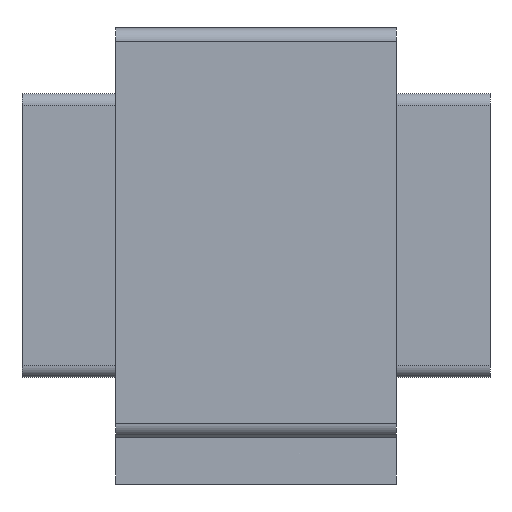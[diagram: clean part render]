
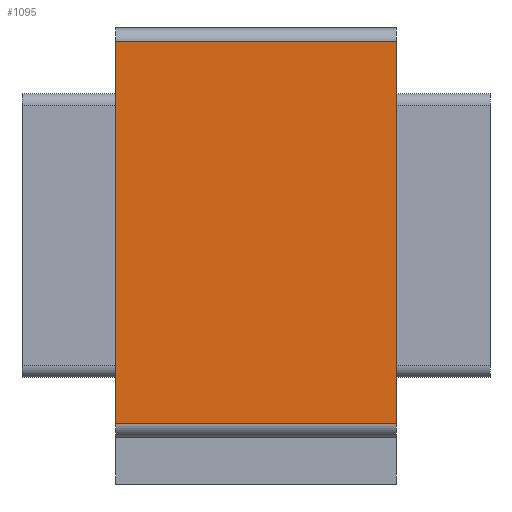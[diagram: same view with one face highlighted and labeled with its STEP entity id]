
A CAD part, left-side view. The second image highlights one B-rep face of the part: STEP entity #1095.
In plain terms, the highlighted planar face has unit normal (-1, 0, 0).
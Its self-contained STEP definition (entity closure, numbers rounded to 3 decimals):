
#63=PLANE('',#1199);
#99=FACE_OUTER_BOUND('',#158,.T.);
#158=EDGE_LOOP('',(#826,#827,#828,#829));
#226=LINE('',#1635,#326);
#248=LINE('',#1708,#348);
#260=LINE('',#1730,#360);
#261=LINE('',#1731,#361);
#326=VECTOR('',#1299,1000.);
#348=VECTOR('',#1357,1000.);
#360=VECTOR('',#1389,10.);
#361=VECTOR('',#1390,10.);
#484=VERTEX_POINT('',#1632);
#485=VERTEX_POINT('',#1634);
#504=VERTEX_POINT('',#1678);
#518=VERTEX_POINT('',#1706);
#589=EDGE_CURVE('',#484,#485,#226,.T.);
#626=EDGE_CURVE('',#518,#504,#248,.T.);
#638=EDGE_CURVE('',#518,#485,#260,.T.);
#639=EDGE_CURVE('',#504,#484,#261,.T.);
#826=ORIENTED_EDGE('',*,*,#626,.F.);
#827=ORIENTED_EDGE('',*,*,#638,.T.);
#828=ORIENTED_EDGE('',*,*,#589,.F.);
#829=ORIENTED_EDGE('',*,*,#639,.F.);
#1095=ADVANCED_FACE('',(#99),#63,.T.);
#1199=AXIS2_PLACEMENT_3D('',#1729,#1387,#1388);
#1299=DIRECTION('',(0.,0.,-1.));
#1357=DIRECTION('',(0.,0.,1.));
#1387=DIRECTION('center_axis',(-1.,0.,0.));
#1388=DIRECTION('ref_axis',(0.,1.,0.));
#1389=DIRECTION('',(0.,-1.,0.));
#1390=DIRECTION('',(0.,-1.,0.));
#1632=CARTESIAN_POINT('',(-33.1,-60.,169.));
#1634=CARTESIAN_POINT('',(-33.1,-60.,6.));
#1635=CARTESIAN_POINT('',(-33.1,-60.,169.));
#1678=CARTESIAN_POINT('',(-33.1,60.,169.));
#1706=CARTESIAN_POINT('',(-33.1,60.,6.));
#1708=CARTESIAN_POINT('',(-33.1,60.,169.));
#1729=CARTESIAN_POINT('Origin',(-33.1,-40.,169.));
#1730=CARTESIAN_POINT('',(-33.1,-40.,6.));
#1731=CARTESIAN_POINT('',(-33.1,-40.,169.));
